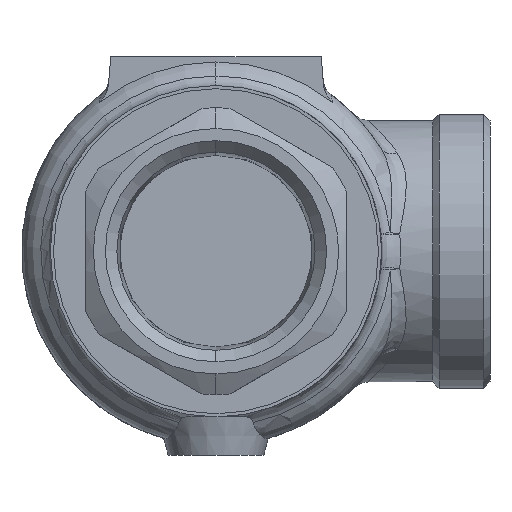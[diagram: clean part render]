
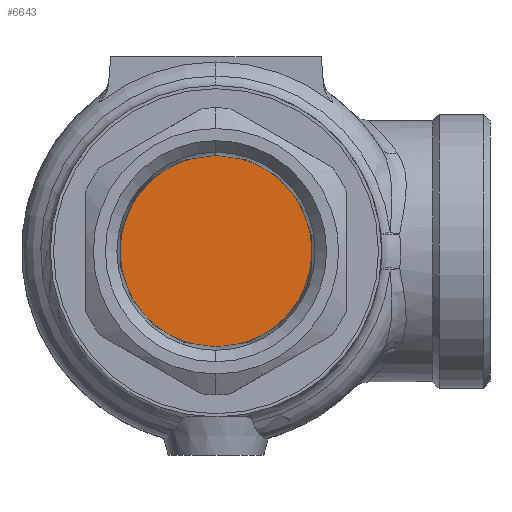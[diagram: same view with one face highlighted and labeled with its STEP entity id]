
A CAD part, front view. The second image highlights one B-rep face of the part: STEP entity #6643.
In plain terms, the highlighted planar face has unit normal (0, -1, 0).
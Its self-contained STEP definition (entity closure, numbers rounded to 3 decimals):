
#93 = CARTESIAN_POINT ( 'NONE',  ( 0., -38.5, 0. ) ) ;
#155 = EDGE_LOOP ( 'NONE', ( #4029, #4541 ) ) ;
#312 = EDGE_CURVE ( 'NONE', #1096, #2580, #2476, .T. ) ;
#397 = AXIS2_PLACEMENT_3D ( 'NONE', #93, #1931, #6770 ) ;
#1096 = VERTEX_POINT ( 'NONE', #2156 ) ;
#1334 = DIRECTION ( 'NONE',  ( 0., 1., 0. ) ) ;
#1931 = DIRECTION ( 'NONE',  ( 0., 1., 0. ) ) ;
#2156 = CARTESIAN_POINT ( 'NONE',  ( 0., -38.5, -15.05 ) ) ;
#2333 = DIRECTION ( 'NONE',  ( 0., 0., 1. ) ) ;
#2476 = CIRCLE ( 'NONE', #6151, 15.05 ) ;
#2580 = VERTEX_POINT ( 'NONE', #4317 ) ;
#2840 = DIRECTION ( 'NONE',  ( 0., 1., 0. ) ) ;
#2927 = FACE_OUTER_BOUND ( 'NONE', #155, .T. ) ;
#4029 = ORIENTED_EDGE ( 'NONE', *, *, #312, .F. ) ;
#4193 = CIRCLE ( 'NONE', #397, 15.05 ) ;
#4317 = CARTESIAN_POINT ( 'NONE',  ( 0., -38.5, 15.05 ) ) ;
#4541 = ORIENTED_EDGE ( 'NONE', *, *, #6742, .F. ) ;
#4942 = CARTESIAN_POINT ( 'NONE',  ( 0., -38.5, 0. ) ) ;
#5342 = PLANE ( 'NONE',  #5714 ) ;
#5714 = AXIS2_PLACEMENT_3D ( 'NONE', #5854, #2840, #2333 ) ;
#5854 = CARTESIAN_POINT ( 'NONE',  ( -15.05, -38.5, 0. ) ) ;
#6151 = AXIS2_PLACEMENT_3D ( 'NONE', #4942, #1334, #6857 ) ;
#6643 = ADVANCED_FACE ( 'NONE', ( #2927 ), #5342, .F. ) ;
#6742 = EDGE_CURVE ( 'NONE', #2580, #1096, #4193, .T. ) ;
#6770 = DIRECTION ( 'NONE',  ( 0., 0., 1. ) ) ;
#6857 = DIRECTION ( 'NONE',  ( 0., 0., 1. ) ) ;
